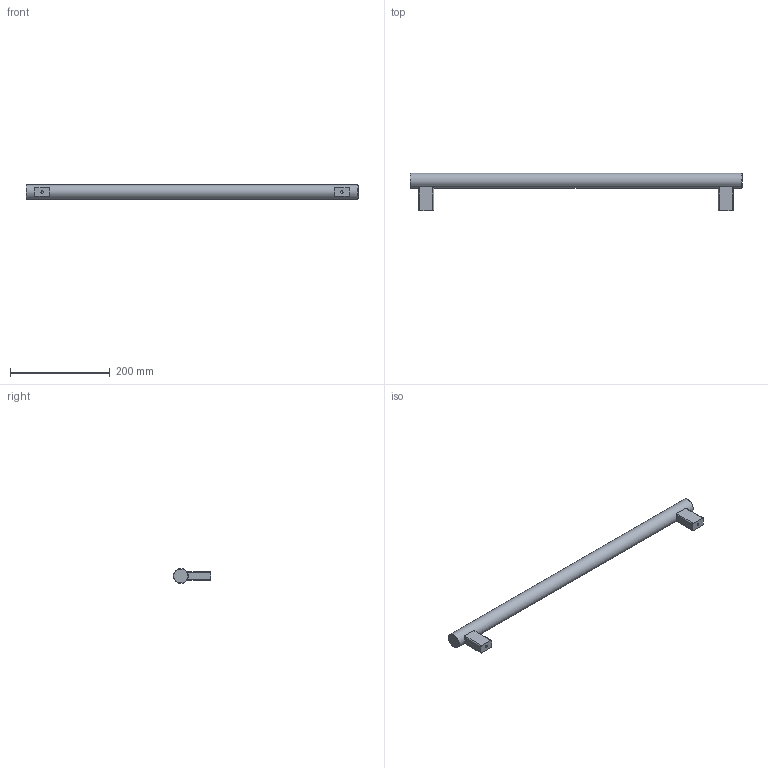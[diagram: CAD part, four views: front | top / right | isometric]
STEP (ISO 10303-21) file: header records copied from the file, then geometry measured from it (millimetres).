
FILE_DESCRIPTION( ( 'STEP AP203' ), '1' );
FILE_NAME( 'C:/Temp/Ganter_Step_05_03_2020/data/1_2/gn_666/Tubular handle GN 666-30-M6-600-EL.stp', '2020-03-05T10:18:25', ( 'License CC BY-ND 4.0' ), ( 'CADENAS' ), ' ', 'PARTsolutions', ' ' );
FILE_SCHEMA( ( 'CONFIG_CONTROL_DESIGN' ) );
Length unit declared in the file: millimetre
Products named in the file (1): _Tubular handle GN 666-30-M6-600-EL
Bounding box: 665 x 75 x 30 mm (x, y, z)
Volume: 518709.1 mm3; surface area: 73087 mm2
Topology: 1 solids, 1 shells, 27 faces, 65 edges, 42 vertices
Faces by surface type: plane 12, cylinder 11, cone 4
Full cylindrical faces by diameter (mm): 4.917 x2, 30 x1
Entity records: 882 total; most frequent: CARTESIAN_POINT 238, DIRECTION 124, ORIENTED_EDGE 112, EDGE_CURVE 56, AXIS2_PLACEMENT_3D 48, VERTEX_POINT 42, EDGE_LOOP 36, FACE_OUTER_BOUND 30
